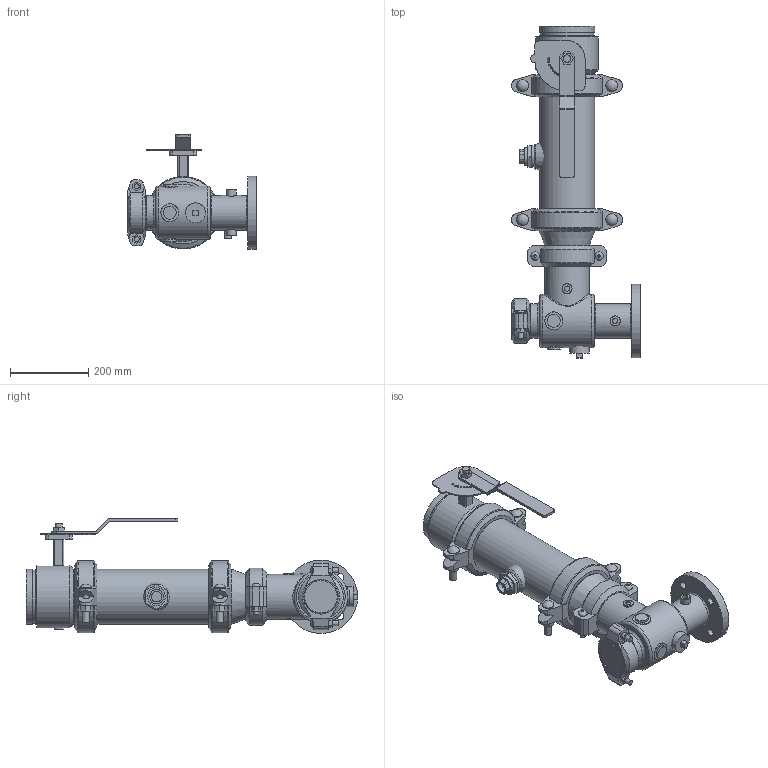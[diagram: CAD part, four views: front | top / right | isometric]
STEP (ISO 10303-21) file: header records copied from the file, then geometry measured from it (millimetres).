
FILE_DESCRIPTION(/* description */ ('VIC SVI PUMP DROP HORZ S/391 (OGSxFLG)','CAx-IF Rec.Pracs.---Representation and Presentation of Product Manufacturing Information (PMI)---4.0---2014-10-13'),/* implementation_level */ '2;1');
FILE_NAME(/* name */ 'C:\Users\Vjadhav\AppData\Roaming\Autodesk\ApplicationPlugins\Victaulic.Temp\A952\Victaulic_IPS_SVI_CL 150_Series 391 (OGSxFLG)_05.0x02.5 (125x65).stp',/* time_stamp */ '2021-04-09T17:53:56+05:00',/* author */ ('kkamble'),/* organization */ ('Victaulic'),/* preprocessor_version */ 'ST-DEVELOPER v17.2',/* originating_system */ 'Autodesk Inventor 2019',/* authorisation */ '');
FILE_SCHEMA (('AP242_MANAGED_MODEL_BASED_3D_ENGINEERING_MIM_LF { 1 0 10303 442 1 1 4 }'));
Length unit declared in the file: inch
Products named in the file (11): 391-05.0x02.5; 731D-04.0x02.5; 731D-04.0x02.5_1; 731D-04.0; 07-03.0; 050-05.0x04.0; 075-04.0; PIPE-05.0x02.5; 761-05.0; 177N-05.0; 923-04.0x0.75
Assembly tree (11 placements, depth 3):
  391-05.0x02.5
    731D-04.0x02.5
      731D-04.0x02.5_1
      731D-04.0
      07-03.0
    050-05.0x04.0
    075-04.0
    PIPE-05.0x02.5
    177N-05.0  x2
    761-05.0
    923-04.0x0.75
Bounding box: 330.2 x 850.65 x 294.39 mm (x, y, z)
Volume: 7023628 mm3; surface area: 1331601 mm2
Topology: 10 solids, 15 shells, 600 faces, 1538 edges, 1042 vertices
Faces by surface type: plane 340, cylinder 212, cone 22, torus 17, sphere 6, bspline 3
Full cylindrical faces by diameter (mm): 4.826 x10, 8.636 x4, 12.7 x8, 13.716 x4, 14.605 x2, 17.78 x4, 19.05 x6, 22.225 x2, 22.86 x1, 25.4 x4, 26.67 x1, 30.48 x4, 33.02 x3, 45.974 x2, 50.8 x1, 55.118 x1, 55.626 x1, 63.5 x1, 65.278 x1, 67.056 x1, 72.898 x1, 82.55 x1, 84.938 x2, 88.9 x6, 96.52 x1, 102.26 x1, 107.95 x1, 110.084 x2, 114.3 x6, 128.194 x3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
Entity records: 17682 total; most frequent: CARTESIAN_POINT 3820, DIRECTION 2843, ORIENTED_EDGE 2596, EDGE_CURVE 1298, AXIS2_PLACEMENT_3D 1084, VERTEX_POINT 883, LINE 675, VECTOR 675
